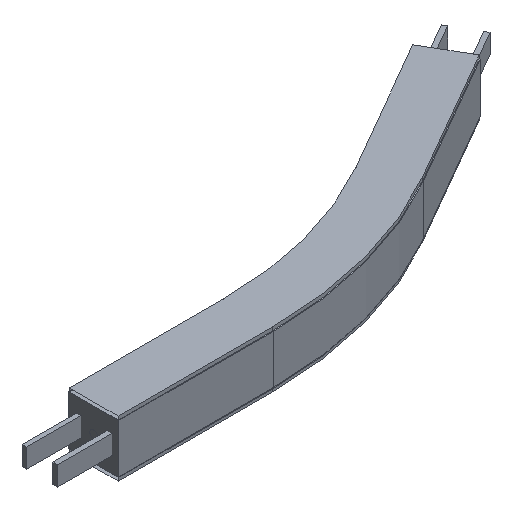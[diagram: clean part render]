
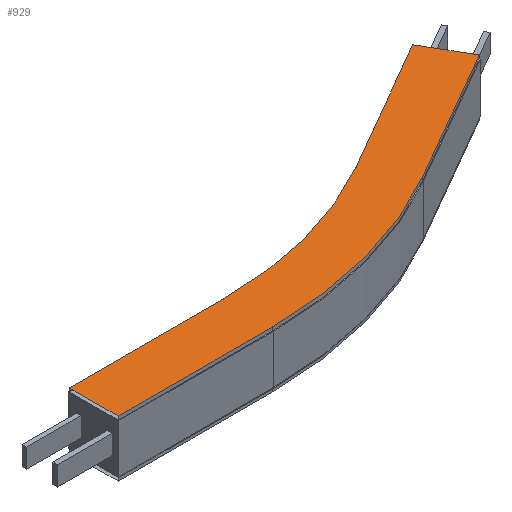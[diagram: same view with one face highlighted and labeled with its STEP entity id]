
A CAD part, isometric view. The second image highlights one B-rep face of the part: STEP entity #929.
In plain terms, the highlighted planar face has unit normal (0, 0, -1).
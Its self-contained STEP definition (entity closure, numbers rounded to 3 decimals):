
#61=CIRCLE('',#1011,468.5);
#62=CIRCLE('',#1013,531.5);
#119=FACE_OUTER_BOUND('',#171,.T.);
#171=EDGE_LOOP('',(#794,#795,#796,#797,#798,#799,#800,#801));
#253=LINE('',#1463,#363);
#255=LINE('',#1469,#365);
#262=LINE('',#1490,#372);
#267=LINE('',#1499,#377);
#268=LINE('',#1501,#378);
#269=LINE('',#1502,#379);
#363=VECTOR('',#1198,10.);
#365=VECTOR('',#1202,10.);
#372=VECTOR('',#1223,10.);
#377=VECTOR('',#1232,10.);
#378=VECTOR('',#1235,10.);
#379=VECTOR('',#1236,10.);
#453=VERTEX_POINT('',#1457);
#455=VERTEX_POINT('',#1461);
#456=VERTEX_POINT('',#1465);
#458=VERTEX_POINT('',#1468);
#461=VERTEX_POINT('',#1475);
#462=VERTEX_POINT('',#1480);
#464=VERTEX_POINT('',#1486);
#467=VERTEX_POINT('',#1497);
#565=EDGE_CURVE('',#453,#455,#253,.T.);
#567=EDGE_CURVE('',#456,#458,#255,.T.);
#572=EDGE_CURVE('',#461,#453,#61,.T.);
#574=EDGE_CURVE('',#462,#456,#62,.T.);
#578=EDGE_CURVE('',#464,#461,#262,.T.);
#583=EDGE_CURVE('',#467,#462,#267,.T.);
#584=EDGE_CURVE('',#467,#464,#268,.T.);
#585=EDGE_CURVE('',#455,#458,#269,.T.);
#794=ORIENTED_EDGE('',*,*,#584,.T.);
#795=ORIENTED_EDGE('',*,*,#578,.T.);
#796=ORIENTED_EDGE('',*,*,#572,.T.);
#797=ORIENTED_EDGE('',*,*,#565,.T.);
#798=ORIENTED_EDGE('',*,*,#585,.T.);
#799=ORIENTED_EDGE('',*,*,#567,.F.);
#800=ORIENTED_EDGE('',*,*,#574,.F.);
#801=ORIENTED_EDGE('',*,*,#583,.F.);
#879=PLANE('',#1018);
#929=ADVANCED_FACE('',(#119),#879,.F.);
#1011=AXIS2_PLACEMENT_3D('',#1478,#1210,#1211);
#1013=AXIS2_PLACEMENT_3D('',#1483,#1215,#1216);
#1018=AXIS2_PLACEMENT_3D('',#1500,#1233,#1234);
#1198=DIRECTION('',(0.866,0.5,0.));
#1202=DIRECTION('',(0.866,0.5,0.));
#1210=DIRECTION('center_axis',(0.,0.,
1.));
#1211=DIRECTION('ref_axis',(0.,-1.,0.));
#1215=DIRECTION('center_axis',(0.,0.,
1.));
#1216=DIRECTION('ref_axis',(0.,-1.,0.));
#1223=DIRECTION('',(1.,0.,0.));
#1232=DIRECTION('',(1.,0.,0.));
#1233=DIRECTION('center_axis',(0.,0.,1.));
#1234=DIRECTION('ref_axis',(0.,-1.,0.));
#1235=DIRECTION('',(0.,1.,0.));
#1236=DIRECTION('',(0.5,-0.866,0.));
#1457=CARTESIAN_POINT('',(434.25,94.267,36.5));
#1461=CARTESIAN_POINT('',(607.455,194.267,36.5));
#1463=CARTESIAN_POINT('',(434.25,94.267,36.5));
#1465=CARTESIAN_POINT('',(465.75,39.707,36.5));
#1468=CARTESIAN_POINT('',(638.955,139.707,36.5));
#1469=CARTESIAN_POINT('',(465.75,39.707,36.5));
#1475=CARTESIAN_POINT('',(200.,31.5,36.5));
#1478=CARTESIAN_POINT('Origin',(200.,500.,36.5));
#1480=CARTESIAN_POINT('',(200.,-31.5,36.5));
#1483=CARTESIAN_POINT('Origin',(200.,500.,36.5));
#1486=CARTESIAN_POINT('',(0.,31.5,36.5));
#1490=CARTESIAN_POINT('',(0.,31.5,36.5));
#1497=CARTESIAN_POINT('',(0.,-31.5,36.5));
#1499=CARTESIAN_POINT('',(0.,-31.5,36.5));
#1500=CARTESIAN_POINT('Origin',(0.,31.5,36.5));
#1501=CARTESIAN_POINT('',(0.,-31.5,36.5));
#1502=CARTESIAN_POINT('',(638.955,139.707,36.5));
